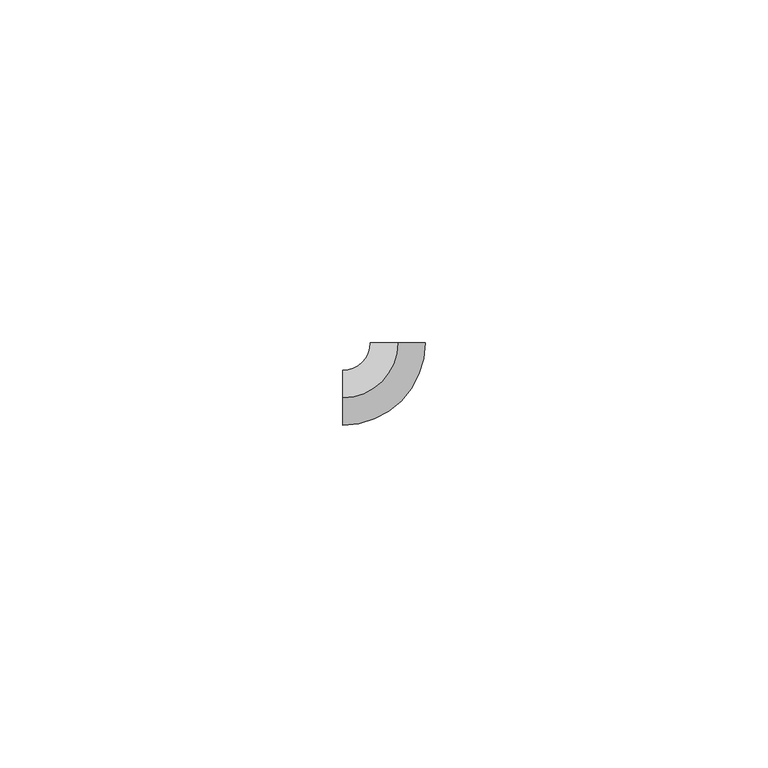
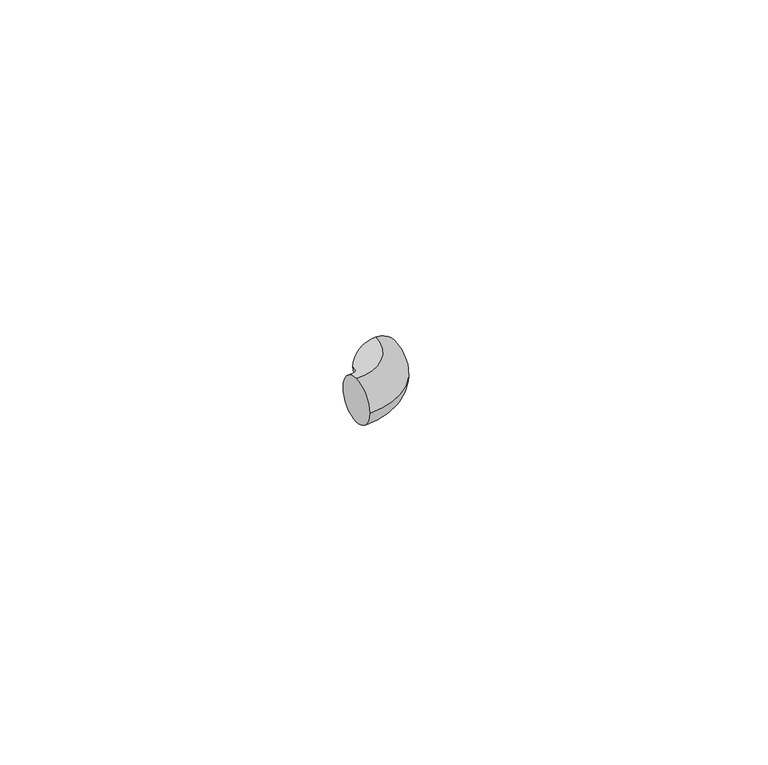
"""IFC4 building model written with IfcOpenShell, lengths in millimetres: duct fitting geometry, КНС_Поворот_Пруток_Неспецифицируемое_DKC : Стандарт."""

from ifc_helpers import new_model, si_unit, point, frame, origin, place, context, project, spatial, circle_curve, ellipse_curve, trimmed, source, transform, mapped, element, save
from ifc_brep_helpers import plane_surface, revolved_surface, advanced_brep


def duct_fitting_cd562be5(model_context):
    return source(origin(), model_context, "Body", "AdvancedBrep", [
        advanced_brep(
        [(-8.0, 0.0, 4.0), (-8.0, 4.0, 0.0), (-8.0, 0.0, -4.0), (-8.0, -4.0, 0.0), (0.0, 8.0, 4.0), (4.0, 8.0, 0.0), (0.0, 8.0, -4.0), (-4.0, 8.0, 0.0)],
        [
            (0, 1, circle_curve(frame((-8.0, 0.0, 0.0), z_axis=(-1.0, 0.0, 0.0), x_axis=(0.0, 1.0, 0.0)), 4.0)),
            (1, 2, circle_curve(frame((-8.0, 0.0, 0.0), z_axis=(-1.0, 0.0, 0.0), x_axis=(0.0, 1.0, 0.0)), 4.0)),
            (2, 3, circle_curve(frame((-8.0, 0.0, 0.0), z_axis=(-1.0, 0.0, 0.0), x_axis=(0.0, 1.0, 0.0)), 4.0)),
            (3, 0, circle_curve(frame((-8.0, 0.0, 0.0), z_axis=(-1.0, 0.0, 0.0), x_axis=(0.0, 1.0, 0.0)), 4.0)),
            (4, 5, circle_curve(frame((0.0, 8.0, 0.0), z_axis=(0.0, 1.0, 0.0), x_axis=(-1.0, 0.0, 0.0)), 4.0)),
            (5, 6, circle_curve(frame((0.0, 8.0, 0.0), z_axis=(0.0, 1.0, 0.0), x_axis=(-1.0, 0.0, 0.0)), 4.0)),
            (6, 7, circle_curve(frame((0.0, 8.0, 0.0), z_axis=(0.0, 1.0, 0.0), x_axis=(-1.0, 0.0, 0.0)), 4.0)),
            (7, 4, circle_curve(frame((0.0, 8.0, 0.0), z_axis=(0.0, 1.0, 0.0), x_axis=(-1.0, 0.0, 0.0)), 4.0)),
            (7, 1, circle_curve(frame((-8.0, 8.0, 0.0), z_axis=(0.0, 0.0, -1.0), x_axis=(0.0, -1.0, 0.0)), 4.0)),
            (0, 4, circle_curve(frame((-8.0, 8.0, 4.0), z_axis=(0.0, 0.0, 1.0), x_axis=(0.0, -1.0, 0.0)), 8.0)),
            (6, 2, circle_curve(frame((-8.0, 8.0, -4.0), z_axis=(0.0, 0.0, -1.0), x_axis=(0.0, -1.0, 0.0)), 8.0)),
            (5, 3, circle_curve(frame((-8.0, 8.0, 0.0), z_axis=(0.0, 0.0, -1.0), x_axis=(0.0, -1.0, 0.0)), 12.0)),
        ],
        [
            plane_surface(frame((-8.0, 0.0, 0.0), z_axis=(-1.0, 0.0, 0.0), x_axis=(0.0, 0.0, 1.0))),
            plane_surface(frame((0.0, 8.0, 0.0), z_axis=(0.0, 1.0, 0.0), x_axis=(0.0, 0.0, 1.0))),
            revolved_surface(trimmed(ellipse_curve(frame((-8.0, 0.0, 0.0), z_axis=(-1.0, 0.0, 0.0), x_axis=(0.0, 1.0, 0.0)), 4.0, 4.0), [point((-8.0, 0.0, 4.0))], [point((-8.0, 4.0, 0.0))], True, "CARTESIAN"), (-8.0, 8.0, 0.0), (0.0, 0.0, 1.0)),
            revolved_surface(trimmed(ellipse_curve(frame((-8.0, 0.0, 0.0), z_axis=(-1.0, 0.0, 0.0), x_axis=(0.0, 1.0, 0.0)), 4.0, 4.0), [point((-8.0, 4.0, 0.0))], [point((-8.0, 0.0, -4.0))], True, "CARTESIAN"), (-8.0, 8.0, 0.0), (0.0, 0.0, 1.0)),
            revolved_surface(trimmed(ellipse_curve(frame((-8.0, 0.0, 0.0), z_axis=(-1.0, 0.0, 0.0), x_axis=(0.0, 1.0, 0.0)), 4.0, 4.0), [point((-8.0, 0.0, -4.0))], [point((-8.0, -4.0, 0.0))], True, "CARTESIAN"), (-8.0, 8.0, 0.0), (0.0, 0.0, 1.0)),
            revolved_surface(trimmed(ellipse_curve(frame((-8.0, 0.0, 0.0), z_axis=(-1.0, 0.0, 0.0), x_axis=(0.0, 1.0, 0.0)), 4.0, 4.0), [point((-8.0, -4.0, 0.0))], [point((-8.0, 0.0, 4.0))], True, "CARTESIAN"), (-8.0, 8.0, 0.0), (0.0, 0.0, 1.0)),
        ],
        [
            (0, [[1, 2, 3, 4]]),
            (1, [[5, 6, 7, 8]]),
            (2, [[9, -1, 10, -8]]),
            (3, [[11, -2, -9, -7]]),
            (4, [[12, -3, -11, -6]]),
            (5, [[-10, -4, -12, -5]]),
        ],
    ),
    ])


if __name__ == "__main__":
    model = new_model("IFC4")
    model_context = context("Model", 3, world=origin())
    ifc_project = project(units=[si_unit("LENGTHUNIT", "METRE", prefix="MILLI")], contexts=[model_context])
    site = spatial("IfcSite", under=ifc_project)
    building = spatial("IfcBuilding", under=site)
    placement = place(None, origin())
    duct_fitting_shape = duct_fitting_cd562be5(model_context)
    element("IfcDuctFitting", 1, ObjectType="КНС_Поворот_Пруток_Неспецифицируемое_DKC : Стандарт", at=placement, inside=building, context=model_context, shape_type="MappedRepresentation", body=[
        mapped(duct_fitting_shape, transform((0.0, 0.0, 0.0), x_axis=(1.0, 0.0, 0.0), y_axis=(0.0, 1.0, 0.0), z_axis=(0.0, 0.0, 1.0))),
    ])
    save(model, "model.ifc")
